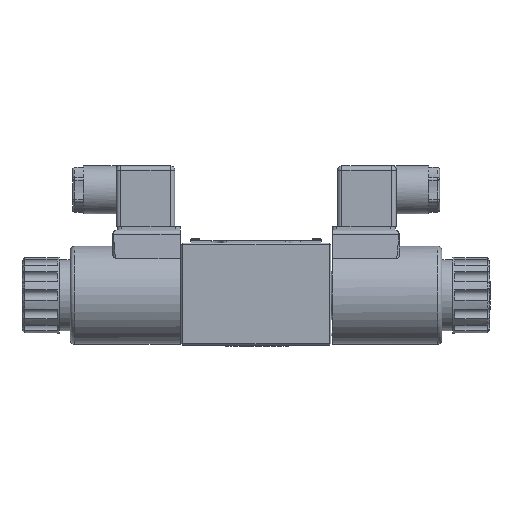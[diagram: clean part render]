
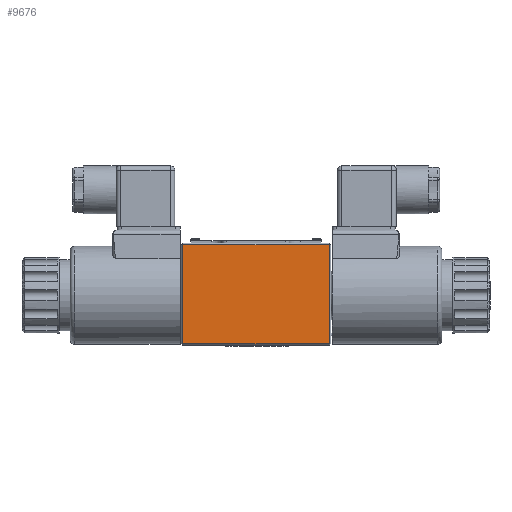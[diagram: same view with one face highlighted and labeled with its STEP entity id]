
A CAD part, front view. The second image highlights one B-rep face of the part: STEP entity #9676.
In plain terms, the highlighted planar face has unit normal (0, -1, 0).
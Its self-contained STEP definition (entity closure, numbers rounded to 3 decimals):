
#346=FACE_OUTER_BOUND('',#3062,.T.);
#921=PLANE('',#12009);
#1270=LINE('',#17031,#2000);
#1271=LINE('',#17034,#2001);
#1272=LINE('',#17036,#2002);
#1273=LINE('',#17038,#2003);
#2000=VECTOR('',#13409,1.);
#2001=VECTOR('',#13410,1.);
#2002=VECTOR('',#13411,1.);
#2003=VECTOR('',#13412,1.);
#3062=EDGE_LOOP('',(#4042,#4043,#4044,#4045));
#4042=ORIENTED_EDGE('',*,*,#7266,.T.);
#4043=ORIENTED_EDGE('',*,*,#7267,.T.);
#4044=ORIENTED_EDGE('',*,*,#7268,.T.);
#4045=ORIENTED_EDGE('',*,*,#7269,.T.);
#7266=EDGE_CURVE('',#10939,#10940,#1270,.T.);
#7267=EDGE_CURVE('',#10940,#10941,#1271,.T.);
#7268=EDGE_CURVE('',#10941,#10942,#1272,.T.);
#7269=EDGE_CURVE('',#10942,#10939,#1273,.T.);
#9676=ADVANCED_FACE('',(#346),#921,.T.);
#10939=VERTEX_POINT('',#17032);
#10940=VERTEX_POINT('',#17033);
#10941=VERTEX_POINT('',#17035);
#10942=VERTEX_POINT('',#17037);
#12009=AXIS2_PLACEMENT_3D('',#17039,#13413,#13414);
#13409=DIRECTION('',(0.,0.,-1.));
#13410=DIRECTION('',(1.,0.,0.));
#13411=DIRECTION('',(0.,0.,1.));
#13412=DIRECTION('',(-1.,0.,0.));
#13413=DIRECTION('',(0.,-1.,0.));
#13414=DIRECTION('',(0.,0.,1.));
#17031=CARTESIAN_POINT('',(0.7,-22.,-23.));
#17032=CARTESIAN_POINT('',(0.7,-22.,23.3));
#17033=CARTESIAN_POINT('',(0.7,-22.,-22.3));
#17034=CARTESIAN_POINT('',(34.5,-22.,-22.3));
#17035=CARTESIAN_POINT('',(68.3,-22.,-22.3));
#17036=CARTESIAN_POINT('',(68.3,-22.,-23.));
#17037=CARTESIAN_POINT('',(68.3,-22.,23.3));
#17038=CARTESIAN_POINT('',(34.5,-22.,23.3));
#17039=CARTESIAN_POINT('',(34.5,-22.,-23.));
